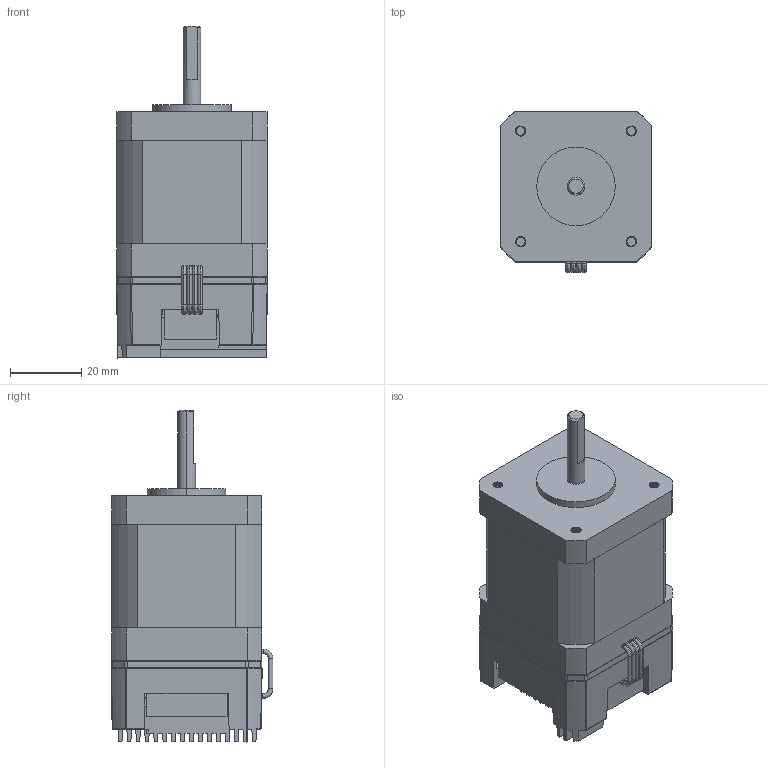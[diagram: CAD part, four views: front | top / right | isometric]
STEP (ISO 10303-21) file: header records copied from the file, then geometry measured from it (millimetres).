
FILE_DESCRIPTION (( 'STEP AP203' ), '1' );
FILE_NAME ('42-48珨极儂.STEP', '2023-02-23T01:51:40', ( '' ), ( '' ), 'SwSTEP 2.0', 'SolidWorks 2018', '' );
FILE_SCHEMA (( 'CONFIG_CONTROL_DESIGN' ));
Products named in the file (4): 42綴傷; 42ヶ傷裔; 42-48珨极儂; 42--29隅赽
Assembly tree (3 placements, depth 2):
  42-48珨极儂
    42綴傷
    42ヶ傷裔
    42--29隅赽
Bounding box: 42.3 x 45.3 x 92.95 mm (x, y, z)
Volume: 98178 mm3; surface area: 41996.4 mm2
Topology: 17 solids, 17 shells, 1917 faces, 4898 edges, 3065 vertices
Faces by surface type: cylinder 616, cone 602, plane 547, torus 94, bspline 46, sphere 12
Entity records: 95075 total; most frequent: CARTESIAN_POINT 47836, DIRECTION 10349, ORIENTED_EDGE 9748, EDGE_CURVE 4874, AXIS2_PLACEMENT_3D 4069, VERTEX_POINT 3065, VECTOR 2211, LINE 2211
